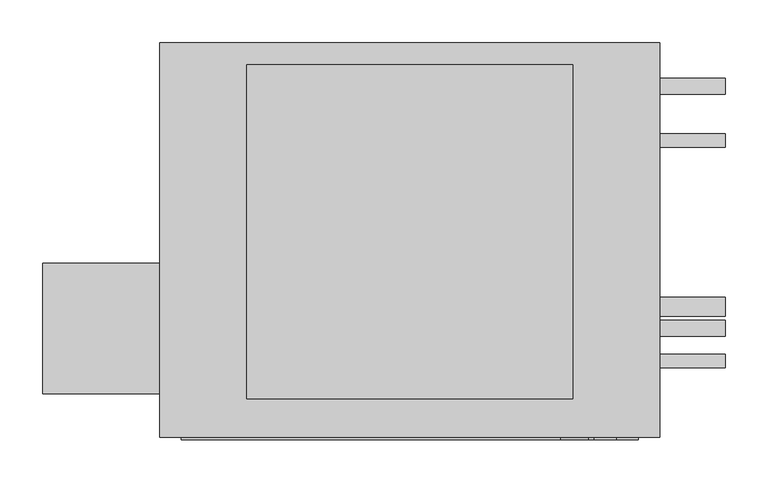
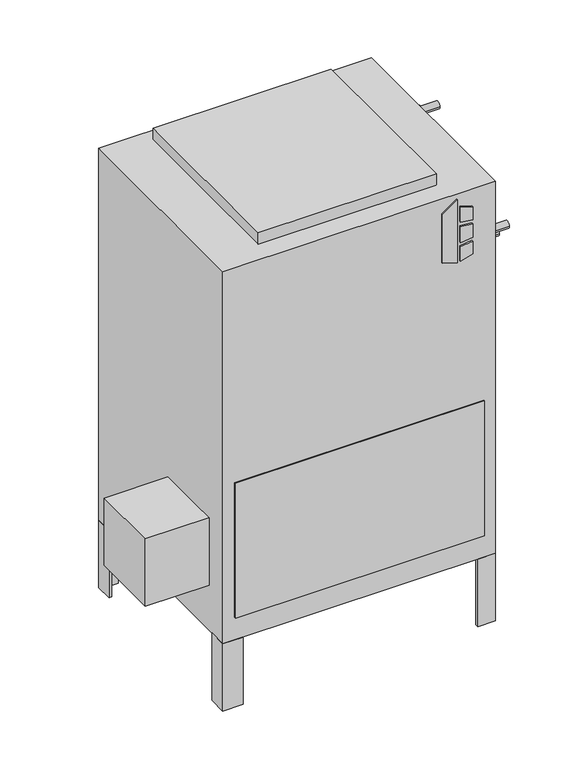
"""IFC4 building model written with IfcOpenShell, lengths in millimetres: proxy geometry, Concealed_High_Capacity_Vertical_Fan_Coil_Unit_-_VEY_-_IEC_-_4-Pipe_RH_2022 : Size 06 - 277v/60Hz/1Ph - 4/2 Coil."""

from ifc_helpers import new_model, si_unit, point, frame, frame_2d, origin, origin_with_axes, place, context, project, spatial, polyline, circle_curve, trimmed, segment, composite_curve, outline, extrude, source, transform, mapped, element, save


def mechanical_equipment_3bcbda2f(model_context):
    return source(origin(), model_context, "Body", "SweptSolid", [
        extrude(outline(polyline([(698.9230703, 328.6868862), (688.975, 360.8602728), (831.1459244, 360.8602728), (808.1239183, 328.6868862), (698.9230703, 328.6868862)])), frame((0.0, -471.4875, 0.0), z_axis=(0.0, 1.0, 0.0), x_axis=(0.0, 0.0, 1.0)), (0.0, 0.0, 1.0), 3.175),
        extrude(outline(polyline([(777.9223557, 367.6186058), (774.7199632, 393.7), (803.9488042, 393.7), (812.0132193, 367.6186058), (777.9223557, 367.6186058)])), frame((0.0, -471.4875, 0.0), z_axis=(0.0, 1.0, 0.0), x_axis=(0.0, 0.0, 1.0)), (0.0, 0.0, 1.0), 3.175),
        extrude(outline(polyline([(726.0588288, 393.7), (722.3933279, 367.6186058), (688.975, 367.6186058), (697.6092372, 393.7), (726.0588288, 393.7)])), frame((0.0, -471.4875, 0.0), z_axis=(0.0, 1.0, 0.0), x_axis=(0.0, 0.0, 1.0)), (0.0, 0.0, 1.0), 3.175),
        extrude(outline(polyline([(765.3739903, 393.7), (767.6558166, 367.6186058), (731.7182681, 367.6186058), (734.4595331, 393.7), (765.3739903, 393.7)])), frame((0.0, -471.4875, 0.0), z_axis=(0.0, 1.0, 0.0), x_axis=(0.0, 0.0, 1.0)), (0.0, 0.0, 1.0), 3.175),
        extrude(outline(polyline([(-276.225, -417.5125), (-276.225, -265.1125), (-139.7, -265.1125), (-139.7, -417.5125), (-276.225, -417.5125)])), frame((0.0, 0.0, 101.6), z_axis=(0.0, 0.0, 1.0), x_axis=(1.0, 0.0, 0.0)), (0.0, 0.0, 1.0), 152.4),
        extrude(outline(polyline([(444.5, -46.0375), (438.15, -46.0375), (438.15, -14.2875), (406.4, -14.2875), (406.4, -7.9375), (444.5, -7.9375), (444.5, -46.0375)])), frame((0.0, 0.0, -152.4), z_axis=(0.0, 0.0, 1.0), x_axis=(1.0, 0.0, 0.0)), (0.0, 0.0, 1.0), 152.4),
        extrude(outline(polyline([(-101.6, -7.9375), (-101.6, -14.2875), (-133.35, -14.2875), (-133.35, -46.0375), (-139.7, -46.0375), (-139.7, -7.9375), (-101.6, -7.9375)])), frame((0.0, 0.0, -152.4), z_axis=(0.0, 0.0, 1.0), x_axis=(1.0, 0.0, 0.0)), (0.0, 0.0, 1.0), 152.4),
        extrude(outline(polyline([(406.4, -468.3125), (406.4, -461.9625), (438.15, -461.9625), (438.15, -430.2125), (444.5, -430.2125), (444.5, -468.3125), (406.4, -468.3125)])), frame((0.0, 0.0, -152.4), z_axis=(0.0, 0.0, 1.0), x_axis=(1.0, 0.0, 0.0)), (0.0, 0.0, 1.0), 152.4),
        extrude(outline(polyline([(-139.7, -428.1199163), (-133.35, -428.1199163), (-133.35, -461.9625), (-96.2318533, -461.9625), (-96.2318533, -468.3125), (-139.7, -468.3125), (-139.7, -428.1199163)])), frame((0.0, 0.0, -152.4), z_axis=(0.0, 0.0, 1.0), x_axis=(1.0, 0.0, 0.0)), (0.0, 0.0, 1.0), 152.4),
        extrude(outline(polyline([(342.9, -33.3375), (342.9, -423.8625), (-38.1, -423.8625), (-38.1, -33.3375), (342.9, -33.3375)])), frame((0.0, 0.0, 841.375), z_axis=(0.0, 0.0, 1.0), x_axis=(1.0, 0.0, 0.0)), (0.0, 0.0, 1.0), 25.4),
        extrude(outline(polyline([(419.1, -471.4875), (-114.3, -471.4875), (-114.3, -468.3125), (419.1, -468.3125), (419.1, -471.4875)])), frame((0.0, 0.0, 50.8), z_axis=(0.0, 0.0, 1.0), x_axis=(1.0, 0.0, 0.0)), (0.0, 0.0, 1.0), 304.8),
        extrude(outline(composite_curve([segment(trimmed(circle_curve(frame_2d((-122.2375, 777.875)), 7.9375), [point((-114.3, 777.875))], [point((-130.175, 777.875))], False, "CARTESIAN"), True, "CONTINUOUS"), segment(trimmed(circle_curve(frame_2d((-122.2375, 777.875)), 7.9375), [point((-130.175, 777.875))], [point((-114.3, 777.875))], False, "CARTESIAN"), True, "CONTINUOUS")], self_intersect=False)), frame((444.5, 0.0, 0.0), z_axis=(1.0, 0.0, 0.0), x_axis=(0.0, 1.0, 0.0)), (0.0, 0.0, 1.0), 76.2),
        extrude(outline(composite_curve([segment(trimmed(circle_curve(frame_2d((-379.4125, 663.575)), 7.9375), [point((-371.475, 663.575))], [point((-387.35, 663.575))], False, "CARTESIAN"), True, "CONTINUOUS"), segment(trimmed(circle_curve(frame_2d((-379.4125, 663.575)), 7.9375), [point((-387.35, 663.575))], [point((-371.475, 663.575))], False, "CARTESIAN"), True, "CONTINUOUS")], self_intersect=False)), frame((444.5, 0.0, 0.0), z_axis=(1.0, 0.0, 0.0), x_axis=(0.0, 1.0, 0.0)), (0.0, 0.0, 1.0), 76.2),
        extrude(outline(composite_curve([segment(trimmed(circle_curve(frame_2d((-58.7375, 727.075)), 9.525), [point((-49.2125, 727.075))], [point((-68.2625, 727.075))], False, "CARTESIAN"), True, "CONTINUOUS"), segment(trimmed(circle_curve(frame_2d((-58.7375, 727.075)), 9.525), [point((-68.2625, 727.075))], [point((-49.2125, 727.075))], False, "CARTESIAN"), True, "CONTINUOUS")], self_intersect=False)), frame((444.5, 0.0, 0.0), z_axis=(1.0, 0.0, 0.0), x_axis=(0.0, 1.0, 0.0)), (0.0, 0.0, 1.0), 76.2),
        extrude(outline(composite_curve([segment(trimmed(circle_curve(frame_2d((-341.3125, 625.475)), 9.525), [point((-331.7875, 625.475))], [point((-350.8375, 625.475))], False, "CARTESIAN"), True, "CONTINUOUS"), segment(trimmed(circle_curve(frame_2d((-341.3125, 625.475)), 9.525), [point((-350.8375, 625.475))], [point((-331.7875, 625.475))], False, "CARTESIAN"), True, "CONTINUOUS")], self_intersect=False)), frame((444.5, 0.0, 0.0), z_axis=(1.0, 0.0, 0.0), x_axis=(0.0, 1.0, 0.0)), (0.0, 0.0, 1.0), 76.2),
        extrude(outline(composite_curve([segment(trimmed(circle_curve(frame_2d((-315.9125, 536.575)), 11.1125), [point((-304.8, 536.575))], [point((-327.025, 536.575))], False, "CARTESIAN"), True, "CONTINUOUS"), segment(trimmed(circle_curve(frame_2d((-315.9125, 536.575)), 11.1125), [point((-327.025, 536.575))], [point((-304.8, 536.575))], False, "CARTESIAN"), True, "CONTINUOUS")], self_intersect=False)), frame((444.5, 0.0, 0.0), z_axis=(1.0, 0.0, 0.0), x_axis=(0.0, 1.0, 0.0)), (0.0, 0.0, 1.0), 76.2),
        extrude(outline(polyline([(444.5, -7.9375), (444.5, -468.3125), (-139.7, -468.3125), (-139.7, -7.9375), (444.5, -7.9375)])), origin_with_axes(), (0.0, 0.0, 1.0), 841.375),
    ])


if __name__ == "__main__":
    model = new_model("IFC4")
    model_context = context("Model", 3, world=origin())
    ifc_project = project(units=[si_unit("LENGTHUNIT", "METRE", prefix="MILLI")], contexts=[model_context])
    site = spatial("IfcSite", under=ifc_project)
    building = spatial("IfcBuilding", under=site)
    placement = place(None, origin())
    mechanical_equipment_shape = mechanical_equipment_3bcbda2f(model_context)
    element("IfcBuildingElementProxy", 1, Name="Concealed_High_Capacity_Vertical_Fan_Coil_Unit_-_VEY_-_IEC_-_4-Pipe_RH_2022 : Size 06 - 277v/60Hz/1Ph - 4/2 Coil", ObjectType="Concealed_High_Capacity_Vertical_Fan_Coil_Unit_-_VEY_-_IEC_-_4-Pipe_RH_2022 : Size 06 - 277v/60Hz/1Ph - 4/2 Coil", at=placement, inside=building, context=model_context, shape_type="MappedRepresentation", body=[
        mapped(mechanical_equipment_shape, transform((0.0, 0.0, 0.0), x_axis=(1.0, 0.0, 0.0), y_axis=(0.0, 1.0, 0.0), z_axis=(0.0, 0.0, 1.0))),
    ])
    save(model, "model.ifc")
